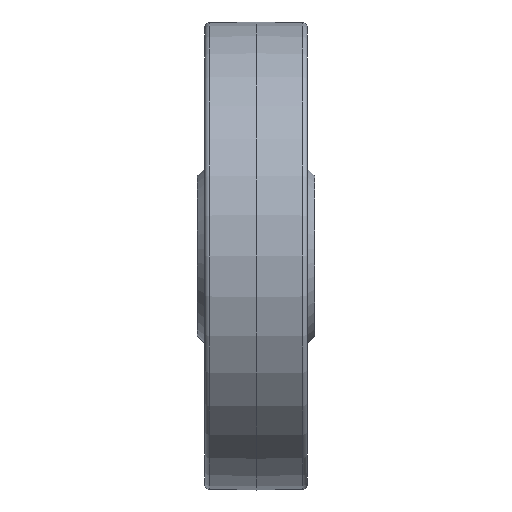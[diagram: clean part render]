
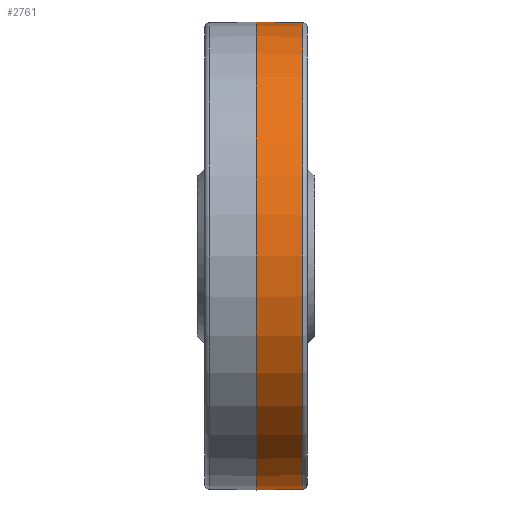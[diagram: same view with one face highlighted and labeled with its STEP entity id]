
A CAD part, front view. The second image highlights one B-rep face of the part: STEP entity #2761.
In plain terms, the highlighted conical face has half-angle 1 degrees and reference radius 25.4 mm.
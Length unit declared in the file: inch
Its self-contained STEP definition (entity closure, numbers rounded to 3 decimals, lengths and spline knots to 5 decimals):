
#65=LINE('',#4802,#187);
#187=VECTOR('',#3700,1.);
#304=CONICAL_SURFACE('',#3062,1.,0.017);
#414=FACE_OUTER_BOUND('',#606,.T.);
#606=EDGE_LOOP('',(#1886,#1887,#1888,#1889));
#789=CIRCLE('',#2944,0.99652);
#881=CIRCLE('',#3063,1.);
#1097=VERTEX_POINT('',#4572);
#1195=VERTEX_POINT('',#4800);
#1345=EDGE_CURVE('',#1097,#1097,#789,.T.);
#1447=EDGE_CURVE('',#1195,#1195,#881,.T.);
#1448=EDGE_CURVE('',#1195,#1097,#65,.T.);
#1886=ORIENTED_EDGE('',*,*,#1447,.F.);
#1887=ORIENTED_EDGE('',*,*,#1448,.T.);
#1888=ORIENTED_EDGE('',*,*,#1345,.T.);
#1889=ORIENTED_EDGE('',*,*,#1448,.F.);
#2761=ADVANCED_FACE('',(#414),#304,.T.);
#2944=AXIS2_PLACEMENT_3D('',#4574,#3450,#3451);
#3062=AXIS2_PLACEMENT_3D('',#4799,#3696,#3697);
#3063=AXIS2_PLACEMENT_3D('',#4801,#3698,#3699);
#3450=DIRECTION('center_axis',(-1.,0.,0.));
#3451=DIRECTION('ref_axis',(0.,0.,-1.));
#3696=DIRECTION('center_axis',(-1.,0.,0.));
#3697=DIRECTION('ref_axis',(0.,0.,-1.));
#3698=DIRECTION('center_axis',(-1.,0.,0.));
#3699=DIRECTION('ref_axis',(0.,0.,-1.));
#3700=DIRECTION('',(1.,0.,-0.017));
#4572=CARTESIAN_POINT('',(0.19941,0.,0.99652));
#4574=CARTESIAN_POINT('Origin',(0.19941,0.,0.));
#4799=CARTESIAN_POINT('Origin',(0.,0.,0.));
#4800=CARTESIAN_POINT('',(0.,0.,1.));
#4801=CARTESIAN_POINT('Origin',(0.,0.,0.));
#4802=CARTESIAN_POINT('',(0.,0.,1.));
